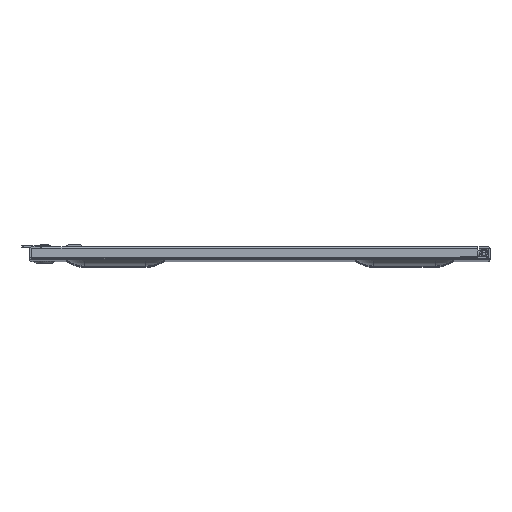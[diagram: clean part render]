
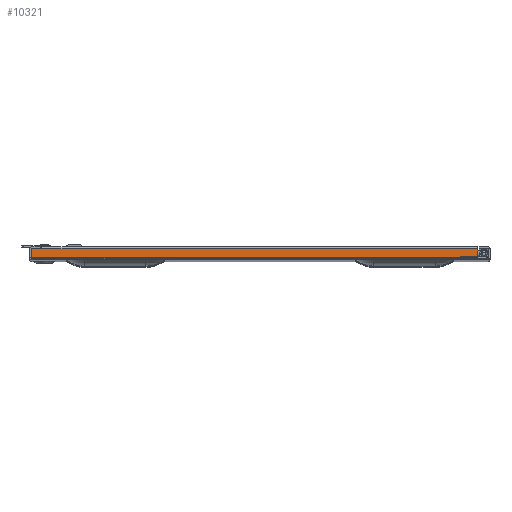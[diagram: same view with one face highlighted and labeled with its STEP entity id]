
A CAD part, top view. The second image highlights one B-rep face of the part: STEP entity #10321.
In plain terms, the highlighted planar face has unit normal (0, 0, 1).
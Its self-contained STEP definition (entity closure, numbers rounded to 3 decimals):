
#866=LINE('',#17989,#1590);
#872=LINE('',#18017,#1596);
#884=LINE('',#18095,#1608);
#888=LINE('',#18102,#1612);
#889=LINE('',#18104,#1613);
#891=LINE('',#18109,#1615);
#895=LINE('',#18116,#1619);
#1590=VECTOR('',#14920,1000.);
#1596=VECTOR('',#14938,1000.);
#1608=VECTOR('',#14968,1000.);
#1612=VECTOR('',#14974,1000.);
#1613=VECTOR('',#14977,1000.);
#1615=VECTOR('',#14981,1000.);
#1619=VECTOR('',#14987,1000.);
#1933=PLANE('',#11709);
#4733=ORIENTED_EDGE('',*,*,#6406,.T.);
#4734=ORIENTED_EDGE('',*,*,#6366,.T.);
#4735=ORIENTED_EDGE('',*,*,#6377,.T.);
#4736=ORIENTED_EDGE('',*,*,#6399,.T.);
#4737=ORIENTED_EDGE('',*,*,#6398,.T.);
#4738=ORIENTED_EDGE('',*,*,#6394,.T.);
#4739=ORIENTED_EDGE('',*,*,#6401,.T.);
#4740=ORIENTED_EDGE('',*,*,#6405,.F.);
#6366=EDGE_CURVE('',#7405,#7406,#866,.T.);
#6377=EDGE_CURVE('',#7406,#7415,#872,.T.);
#6394=EDGE_CURVE('',#7425,#7424,#884,.T.);
#6398=EDGE_CURVE('',#7420,#7425,#888,.T.);
#6399=EDGE_CURVE('',#7415,#7420,#889,.T.);
#6401=EDGE_CURVE('',#7424,#7427,#891,.T.);
#6405=EDGE_CURVE('',#7430,#7427,#895,.T.);
#6406=EDGE_CURVE('',#7430,#7405,#8239,.T.);
#7405=VERTEX_POINT('',#17985);
#7406=VERTEX_POINT('',#17988);
#7415=VERTEX_POINT('',#18016);
#7420=VERTEX_POINT('',#18076);
#7424=VERTEX_POINT('',#18094);
#7425=VERTEX_POINT('',#18096);
#7427=VERTEX_POINT('',#18107);
#7430=VERTEX_POINT('',#18115);
#8239=CIRCLE('',#11710,1.08);
#8907=EDGE_LOOP('',(#4733,#4734,#4735,#4736,#4737,#4738,#4739,#4740));
#9605=FACE_BOUND('',#8907,.T.);
#10321=ADVANCED_FACE('',(#9605),#1933,.T.);
#11709=AXIS2_PLACEMENT_3D('',#18117,#14988,#14989);
#11710=AXIS2_PLACEMENT_3D('',#18118,#14990,#14991);
#14920=DIRECTION('',(1.,0.,0.));
#14938=DIRECTION('',(0.,1.,0.));
#14968=DIRECTION('',(0.,1.,0.));
#14974=DIRECTION('',(-1.,0.,0.));
#14977=DIRECTION('',(-1.,0.,0.));
#14981=DIRECTION('',(-1.,0.,0.));
#14987=DIRECTION('',(0.,1.,0.));
#14988=DIRECTION('',(0.,0.,1.));
#14989=DIRECTION('',(0.,-1.,0.));
#14990=DIRECTION('',(0.,0.,-1.));
#14991=DIRECTION('',(-1.,0.,0.));
#17985=CARTESIAN_POINT('',(-237.626,2.184,530.225));
#17988=CARTESIAN_POINT('',(226.505,2.184,530.225));
#17989=CARTESIAN_POINT('',(-239.205,2.184,530.225));
#18016=CARTESIAN_POINT('',(226.505,11.303,530.225));
#18017=CARTESIAN_POINT('',(226.505,1.181,530.225));
#18076=CARTESIAN_POINT('',(-226.505,11.303,530.225));
#18094=CARTESIAN_POINT('',(-227.267,12.04,530.225));
#18095=CARTESIAN_POINT('',(-227.267,11.303,530.225));
#18096=CARTESIAN_POINT('',(-227.267,11.303,530.225));
#18102=CARTESIAN_POINT('',(-226.505,11.303,530.225));
#18104=CARTESIAN_POINT('',(-226.505,11.303,530.225));
#18107=CARTESIAN_POINT('',(-237.731,12.04,530.225));
#18109=CARTESIAN_POINT('',(226.505,12.04,530.225));
#18115=CARTESIAN_POINT('',(-237.731,2.22,530.225));
#18116=CARTESIAN_POINT('',(-237.731,1.181,530.225));
#18117=CARTESIAN_POINT('',(-239.205,1.181,530.225));
#18118=CARTESIAN_POINT('',(-238.024,1.181,530.225));
